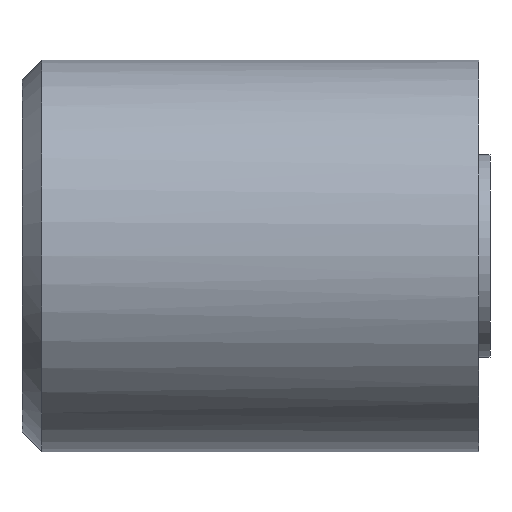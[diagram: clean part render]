
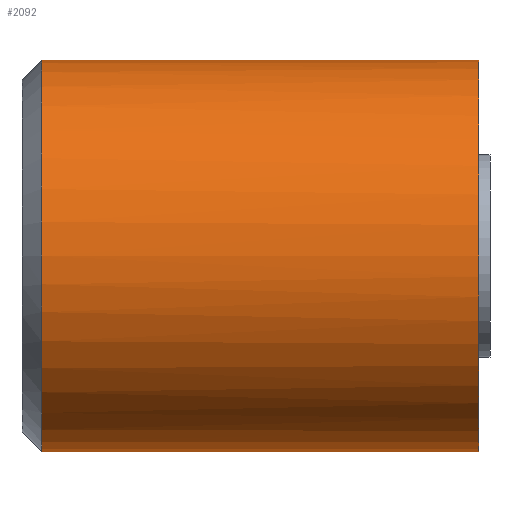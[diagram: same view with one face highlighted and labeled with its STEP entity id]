
A CAD part, front view. The second image highlights one B-rep face of the part: STEP entity #2092.
In plain terms, the highlighted cylindrical face has radius 6 mm (diameter 12 mm), a partial arc.
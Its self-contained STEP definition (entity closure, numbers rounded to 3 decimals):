
#124=CARTESIAN_POINT('Vertex',(0.,0.,-6.)) ;
#130=CARTESIAN_POINT('Control Point',(0.,-6.,0.)) ;
#131=CARTESIAN_POINT('Control Point',(0.,-6.,-0.6)) ;
#132=CARTESIAN_POINT('Control Point',(0.,-5.925,-1.2)) ;
#133=CARTESIAN_POINT('Control Point',(0.,-5.775,-1.788)) ;
#134=CARTESIAN_POINT('Control Point',(0.,-5.331,-2.913)) ;
#135=CARTESIAN_POINT('Control Point',(0.,-4.624,-3.894)) ;
#136=CARTESIAN_POINT('Control Point',(0.,-4.211,-4.337)) ;
#137=CARTESIAN_POINT('Control Point',(0.,-3.282,-5.112)) ;
#138=CARTESIAN_POINT('Control Point',(0.,-2.192,-5.634)) ;
#139=CARTESIAN_POINT('Control Point',(0.,-1.616,-5.825)) ;
#140=CARTESIAN_POINT('Control Point',(0.,-0.939,-5.959)) ;
#141=CARTESIAN_POINT('Control Point',(0.,-0.255,-5.995)) ;
#142=CARTESIAN_POINT('Control Point',(0.,-0.17,-5.998)) ;
#143=CARTESIAN_POINT('Control Point',(0.,-0.085,-6.)) ;
#144=CARTESIAN_POINT('Control Point',(0.,0.,-6.)) ;
#145=CARTESIAN_POINT('Vertex',(0.,-6.,0.)) ;
#149=CARTESIAN_POINT('Control Point',(0.,0.,6.)) ;
#150=CARTESIAN_POINT('Control Point',(0.,-0.515,6.)) ;
#151=CARTESIAN_POINT('Control Point',(0.,-1.03,5.945)) ;
#152=CARTESIAN_POINT('Control Point',(0.,-1.537,5.834)) ;
#153=CARTESIAN_POINT('Control Point',(0.,-2.601,5.479)) ;
#154=CARTESIAN_POINT('Control Point',(0.,-3.557,4.888)) ;
#155=CARTESIAN_POINT('Control Point',(0.,-4.029,4.507)) ;
#156=CARTESIAN_POINT('Control Point',(0.,-4.867,3.636)) ;
#157=CARTESIAN_POINT('Control Point',(0.,-5.465,2.585)) ;
#158=CARTESIAN_POINT('Control Point',(0.,-5.696,2.024)) ;
#159=CARTESIAN_POINT('Control Point',(0.,-5.9,1.276)) ;
#160=CARTESIAN_POINT('Control Point',(0.,-5.982,0.51)) ;
#161=CARTESIAN_POINT('Control Point',(0.,-5.994,0.34)) ;
#162=CARTESIAN_POINT('Control Point',(0.,-6.,0.17)) ;
#163=CARTESIAN_POINT('Control Point',(0.,-6.,0.)) ;
#164=CARTESIAN_POINT('Vertex',(0.,0.,6.)) ;
#2026=CARTESIAN_POINT('Line Origine',(14.,0.,6.)) ;
#2030=CARTESIAN_POINT('Vertex',(13.4,0.,6.)) ;
#2047=CARTESIAN_POINT('Vertex',(13.4,0.,-6.)) ;
#2050=CARTESIAN_POINT('Line Origine',(14.,0.,-6.)) ;
#2064=CARTESIAN_POINT('Axis2P3D Location',(14.,0.,0.)) ;
#2069=CARTESIAN_POINT('Axis2P3D Location',(13.4,0.,0.)) ;
#2073=CARTESIAN_POINT('Vertex',(13.4,-6.,0.)) ;
#2077=CARTESIAN_POINT('Control Point',(13.4,0.,6.)) ;
#2078=CARTESIAN_POINT('Control Point',(13.4,-1.885,6.)) ;
#2079=CARTESIAN_POINT('Control Point',(13.4,-3.772,5.262)) ;
#2080=CARTESIAN_POINT('Control Point',(13.4,-5.262,3.772)) ;
#2081=CARTESIAN_POINT('Control Point',(13.4,-6.,1.885)) ;
#2082=CARTESIAN_POINT('Control Point',(13.4,-6.,0.)) ;
#2027=DIRECTION('Vector Direction',(-1.,0.,0.)) ;
#2051=DIRECTION('Vector Direction',(-1.,0.,0.)) ;
#2065=DIRECTION('Axis2P3D Direction',(-1.,-0.,-0.)) ;
#2066=DIRECTION('Axis2P3D XDirection',(0.,0.,-1.)) ;
#2070=DIRECTION('Axis2P3D Direction',(-1.,-0.,-0.)) ;
#2067=AXIS2_PLACEMENT_3D('Cylinder Axis2P3D',#2064,#2065,#2066) ;
#2071=AXIS2_PLACEMENT_3D('Circle Axis2P3D',#2069,#2070,$) ;
#2085=ORIENTED_EDGE('',*,*,#2054,.T.) ;
#2086=ORIENTED_EDGE('',*,*,#2075,.F.) ;
#2087=ORIENTED_EDGE('',*,*,#2083,.F.) ;
#2088=ORIENTED_EDGE('',*,*,#2032,.T.) ;
#2089=ORIENTED_EDGE('',*,*,#166,.T.) ;
#2090=ORIENTED_EDGE('',*,*,#147,.T.) ;
#2028=VECTOR('Line Direction',#2027,1.) ;
#2052=VECTOR('Line Direction',#2051,1.) ;
#2092=ADVANCED_FACE('D374-12-A-DM-FA',(#2091),#2068,.T.) ;
#129=B_SPLINE_CURVE_WITH_KNOTS('',5,(#130,#131,#132,#133,#134,#135,#136,#137,#138,#139,#140,#141,#142,#143,#144),.UNSPECIFIED.,.F.,.U.,(6,3,3,3,6),(0.,4.243,8.485,12.728,13.329),.UNSPECIFIED.) ;
#148=B_SPLINE_CURVE_WITH_KNOTS('',5,(#149,#150,#151,#152,#153,#154,#155,#156,#157,#158,#159,#160,#161,#162,#163),.UNSPECIFIED.,.F.,.U.,(6,3,3,3,6),(13.329,16.97,21.213,25.456,26.657),.UNSPECIFIED.) ;
#2076=B_SPLINE_CURVE_WITH_KNOTS('',5,(#2077,#2078,#2079,#2080,#2081,#2082),.UNSPECIFIED.,.F.,.U.,(6,6),(-4.712,4.712),.UNSPECIFIED.) ;
#2072=CIRCLE('generated circle',#2071,6.) ;
#2068=CYLINDRICAL_SURFACE('generated cylinder',#2067,6.) ;
#147=EDGE_CURVE('',#146,#125,#129,.T.) ;
#166=EDGE_CURVE('',#165,#146,#148,.T.) ;
#2032=EDGE_CURVE('',#2031,#165,#2029,.T.) ;
#2054=EDGE_CURVE('',#125,#2048,#2053,.F.) ;
#2075=EDGE_CURVE('',#2074,#2048,#2072,.F.) ;
#2083=EDGE_CURVE('',#2031,#2074,#2076,.T.) ;
#2084=EDGE_LOOP('',(#2085,#2086,#2087,#2088,#2089,#2090)) ;
#2091=FACE_OUTER_BOUND('',#2084,.T.) ;
#2029=LINE('Line',#2026,#2028) ;
#2053=LINE('Line',#2050,#2052) ;
#125=VERTEX_POINT('',#124) ;
#146=VERTEX_POINT('',#145) ;
#165=VERTEX_POINT('',#164) ;
#2031=VERTEX_POINT('',#2030) ;
#2048=VERTEX_POINT('',#2047) ;
#2074=VERTEX_POINT('',#2073) ;
